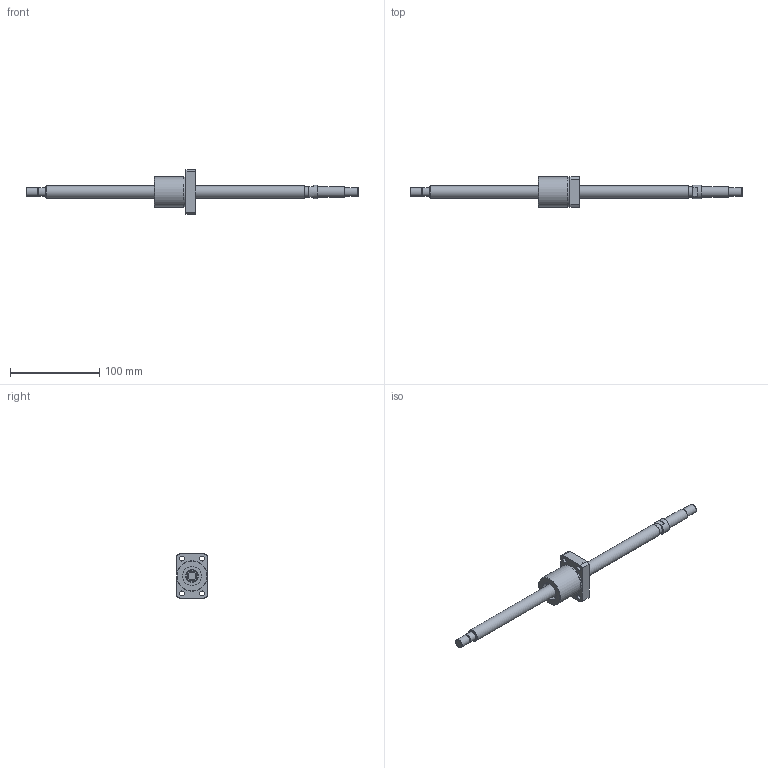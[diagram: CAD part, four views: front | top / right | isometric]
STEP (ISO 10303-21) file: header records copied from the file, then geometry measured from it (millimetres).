
FILE_DESCRIPTION(/* description */ ('STEP AP203'),/* implementation_level */ '2;1');
FILE_NAME(/* name */ 'BNK1408-2.5RRG0+371LC5Y(167.50)',/* time_stamp */ '2024-07-09T09:17:05+02:00',/* author */ ('License CC BY-ND 4.0'),/* organization */ ('CADENAS'),/* preprocessor_version */ 'ST-DEVELOPER v19.3',/* originating_system */ 'PARTsolutions',/* authorisation */ ' ');
FILE_SCHEMA (('CONFIG_CONTROL_DESIGN'));
Length unit declared in the file: millimetre
Products named in the file (3): BNK1408-2.5RRG0+371LC5Y(167.50); BNK 1408-2.5RRG0+371LC5Y Shaft; BNK 1408-2.5RRG0+371LC5YRR0 Nut
Assembly tree (2 placements, depth 2):
  BNK1408-2.5RRG0+371LC5Y(167.50)
    BNK 1408-2.5RRG0+371LC5Y Shaft
    BNK 1408-2.5RRG0+371LC5YRR0 Nut
Bounding box: 371 x 34 x 50 mm (x, y, z)
Volume: 91700.7 mm3; surface area: 27963.7 mm2
Topology: 2 solids, 2 shells, 74 faces, 159 edges, 102 vertices
Faces by surface type: plane 28, cylinder 27, cone 17, torus 2
Full cylindrical faces by diameter (mm): 4.917 x2, 5.5 x4, 9.5 x4, 9.6 x1, 10 x3, 12 x2, 14 x2, 15 x1, 21 x2, 33.4 x1, 34 x1
Entity records: 1940 total; most frequent: CARTESIAN_POINT 349, DIRECTION 336, ORIENTED_EDGE 242, AXIS2_PLACEMENT_3D 155, FACE_BOUND 134, EDGE_LOOP 133, EDGE_CURVE 121, VERTEX_POINT 99
